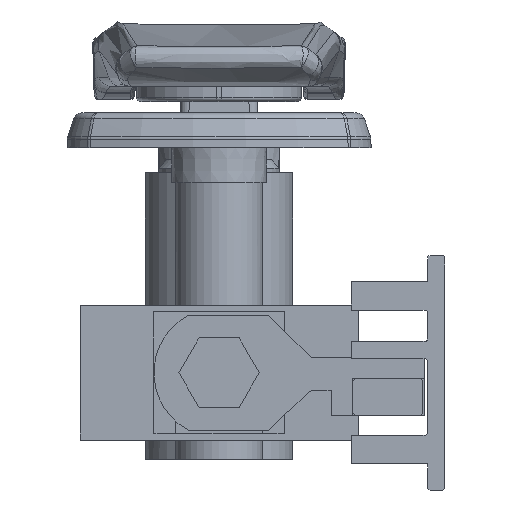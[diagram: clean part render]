
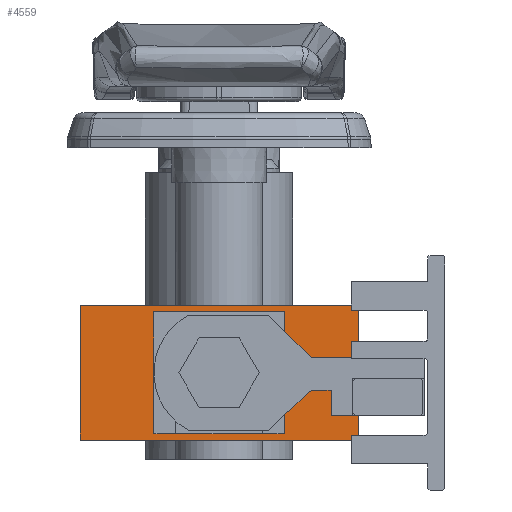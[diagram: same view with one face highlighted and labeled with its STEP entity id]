
A CAD part, front view. The second image highlights one B-rep face of the part: STEP entity #4559.
In plain terms, the highlighted planar face has unit normal (0, -1, 0).
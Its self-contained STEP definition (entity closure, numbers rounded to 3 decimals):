
#335 = CARTESIAN_POINT ( 'NONE',  ( 7., -199.25, 6.25 ) ) ;
#372 = DIRECTION ( 'NONE',  ( 0., 0., -1. ) ) ;
#1087 = ORIENTED_EDGE ( 'NONE', *, *, #26531, .F. ) ;
#2033 = VECTOR ( 'NONE', #9727, 1000. ) ;
#2118 = DIRECTION ( 'NONE',  ( 1., 0., 0. ) ) ;
#2722 = FACE_BOUND ( 'NONE', #33313, .T. ) ;
#2830 = VERTEX_POINT ( 'NONE', #26680 ) ;
#3392 = EDGE_CURVE ( 'NONE', #2830, #25014, #8158, .T. ) ;
#3437 = LINE ( 'NONE', #9851, #11315 ) ;
#4133 = CARTESIAN_POINT ( 'NONE',  ( 7., -199.25, 6.25 ) ) ;
#4559 = ADVANCED_FACE ( 'NONE', ( #2722, #12907 ), #18487, .F. ) ;
#5552 = CARTESIAN_POINT ( 'NONE',  ( 16., -199.25, -7.75 ) ) ;
#5756 = VECTOR ( 'NONE', #372, 1000. ) ;
#5783 = DIRECTION ( 'NONE',  ( 0., 0., -1. ) ) ;
#7221 = CARTESIAN_POINT ( 'NONE',  ( -16., -199.25, 7.75 ) ) ;
#7392 = CARTESIAN_POINT ( 'NONE',  ( -16., -199.25, -7.75 ) ) ;
#8158 = LINE ( 'NONE', #10890, #9905 ) ;
#8284 = DIRECTION ( 'NONE',  ( 0., 0., 1. ) ) ;
#8489 = CARTESIAN_POINT ( 'NONE',  ( -16., -199.25, -7.75 ) ) ;
#8605 = EDGE_CURVE ( 'NONE', #26583, #20776, #15185, .T. ) ;
#9617 = DIRECTION ( 'NONE',  ( 0., 0., 1. ) ) ;
#9727 = DIRECTION ( 'NONE',  ( -1., 0., 0. ) ) ;
#9812 = EDGE_CURVE ( 'NONE', #25014, #15021, #14375, .T. ) ;
#9851 = CARTESIAN_POINT ( 'NONE',  ( 16., -199.25, 7.75 ) ) ;
#9905 = VECTOR ( 'NONE', #5783, 1000. ) ;
#10198 = ORIENTED_EDGE ( 'NONE', *, *, #29728, .F. ) ;
#10536 = LINE ( 'NONE', #20863, #5756 ) ;
#10890 = CARTESIAN_POINT ( 'NONE',  ( -7., -199.25, -6.25 ) ) ;
#11315 = VECTOR ( 'NONE', #32885, 1000. ) ;
#11908 = ORIENTED_EDGE ( 'NONE', *, *, #8605, .F. ) ;
#12759 = ORIENTED_EDGE ( 'NONE', *, *, #32660, .T. ) ;
#12907 = FACE_OUTER_BOUND ( 'NONE', #17092, .T. ) ;
#13383 = CARTESIAN_POINT ( 'NONE',  ( -7., -199.25, -6.25 ) ) ;
#14375 = LINE ( 'NONE', #14558, #32816 ) ;
#14558 = CARTESIAN_POINT ( 'NONE',  ( -7., -199.25, -6.25 ) ) ;
#14659 = ORIENTED_EDGE ( 'NONE', *, *, #22061, .T. ) ;
#15021 = VERTEX_POINT ( 'NONE', #16541 ) ;
#15185 = LINE ( 'NONE', #25126, #27482 ) ;
#15617 = CARTESIAN_POINT ( 'NONE',  ( -16., -199.25, 7.75 ) ) ;
#16170 = EDGE_CURVE ( 'NONE', #23431, #2830, #27006, .T. ) ;
#16541 = CARTESIAN_POINT ( 'NONE',  ( 7., -199.25, -6.25 ) ) ;
#17092 = EDGE_LOOP ( 'NONE', ( #12759, #10198, #11908, #14659 ) ) ;
#18089 = VERTEX_POINT ( 'NONE', #7392 ) ;
#18195 = VERTEX_POINT ( 'NONE', #5552 ) ;
#18318 = DIRECTION ( 'NONE',  ( 0., 1., 0. ) ) ;
#18487 = PLANE ( 'NONE',  #24601 ) ;
#18740 = CARTESIAN_POINT ( 'NONE',  ( 16., -199.25, 7.75 ) ) ;
#20776 = VERTEX_POINT ( 'NONE', #18740 ) ;
#20863 = CARTESIAN_POINT ( 'NONE',  ( -16., -199.25, 7.75 ) ) ;
#21446 = VECTOR ( 'NONE', #29300, 1000. ) ;
#22061 = EDGE_CURVE ( 'NONE', #26583, #18089, #10536, .T. ) ;
#22153 = CARTESIAN_POINT ( 'NONE',  ( 7., -199.25, 6.25 ) ) ;
#23126 = VECTOR ( 'NONE', #9617, 1000. ) ;
#23431 = VERTEX_POINT ( 'NONE', #335 ) ;
#24601 = AXIS2_PLACEMENT_3D ( 'NONE', #15617, #18318, #8284 ) ;
#25004 = LINE ( 'NONE', #22153, #23126 ) ;
#25014 = VERTEX_POINT ( 'NONE', #13383 ) ;
#25126 = CARTESIAN_POINT ( 'NONE',  ( -16., -199.25, 7.75 ) ) ;
#25194 = ORIENTED_EDGE ( 'NONE', *, *, #9812, .F. ) ;
#26234 = ORIENTED_EDGE ( 'NONE', *, *, #3392, .F. ) ;
#26531 = EDGE_CURVE ( 'NONE', #15021, #23431, #25004, .T. ) ;
#26583 = VERTEX_POINT ( 'NONE', #7221 ) ;
#26680 = CARTESIAN_POINT ( 'NONE',  ( -7., -199.25, 6.25 ) ) ;
#27006 = LINE ( 'NONE', #4133, #2033 ) ;
#27482 = VECTOR ( 'NONE', #2118, 1000. ) ;
#28768 = ORIENTED_EDGE ( 'NONE', *, *, #16170, .F. ) ;
#29300 = DIRECTION ( 'NONE',  ( 1., 0., 0. ) ) ;
#29728 = EDGE_CURVE ( 'NONE', #20776, #18195, #3437, .T. ) ;
#31172 = LINE ( 'NONE', #8489, #21446 ) ;
#31958 = DIRECTION ( 'NONE',  ( 1., 0., 0. ) ) ;
#32660 = EDGE_CURVE ( 'NONE', #18089, #18195, #31172, .T. ) ;
#32816 = VECTOR ( 'NONE', #31958, 1000. ) ;
#32885 = DIRECTION ( 'NONE',  ( 0., 0., -1. ) ) ;
#33313 = EDGE_LOOP ( 'NONE', ( #26234, #28768, #1087, #25194 ) ) ;
